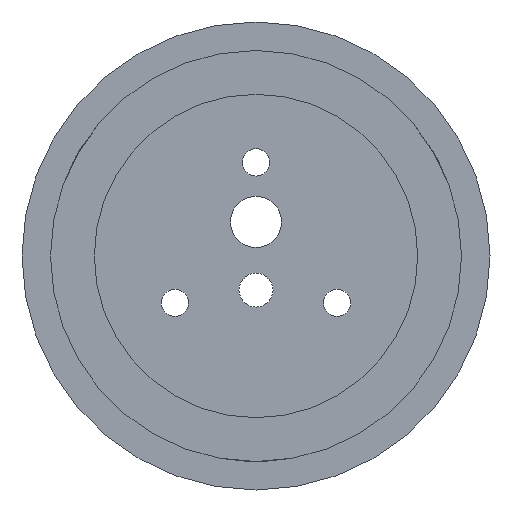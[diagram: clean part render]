
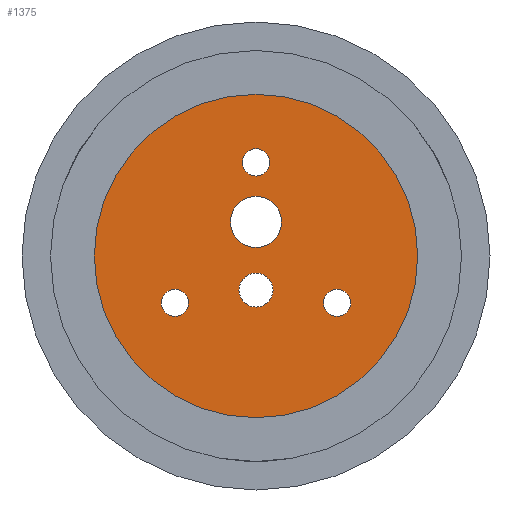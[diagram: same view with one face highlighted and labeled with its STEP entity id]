
A CAD part, left-side view. The second image highlights one B-rep face of the part: STEP entity #1375.
In plain terms, the highlighted planar face has unit normal (-1, 0, 0).
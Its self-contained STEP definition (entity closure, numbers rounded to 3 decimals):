
#168 = CYLINDRICAL_SURFACE('',#169,3.2);
#169 = AXIS2_PLACEMENT_3D('',#170,#171,#172);
#170 = CARTESIAN_POINT('',(549.,19.053,-11.));
#171 = DIRECTION('',(-1.,-0.,-0.));
#172 = DIRECTION('',(0.,1.,0.));
#203 = CYLINDRICAL_SURFACE('',#204,4.);
#204 = AXIS2_PLACEMENT_3D('',#205,#206,#207);
#205 = CARTESIAN_POINT('',(549.,0.,-8.));
#206 = DIRECTION('',(-1.,-0.,-0.));
#207 = DIRECTION('',(0.,1.,0.));
#238 = CYLINDRICAL_SURFACE('',#239,6.);
#239 = AXIS2_PLACEMENT_3D('',#240,#241,#242);
#240 = CARTESIAN_POINT('',(549.,0.,8.));
#241 = DIRECTION('',(-1.,-0.,-0.));
#242 = DIRECTION('',(0.,1.,0.));
#273 = CYLINDRICAL_SURFACE('',#274,3.2);
#274 = AXIS2_PLACEMENT_3D('',#275,#276,#277);
#275 = CARTESIAN_POINT('',(549.,0.,22.));
#276 = DIRECTION('',(-1.,-0.,-0.));
#277 = DIRECTION('',(0.,1.,0.));
#308 = CYLINDRICAL_SURFACE('',#309,3.2);
#309 = AXIS2_PLACEMENT_3D('',#310,#311,#312);
#310 = CARTESIAN_POINT('',(549.,-19.053,-11.));
#311 = DIRECTION('',(-1.,-0.,-0.));
#312 = DIRECTION('',(0.,1.,0.));
#904 = EDGE_CURVE('',#905,#905,#907,.T.);
#905 = VERTEX_POINT('',#906);
#906 = CARTESIAN_POINT('',(574.,22.253,-11.));
#907 = SURFACE_CURVE('',#908,(#913,#920),.PCURVE_S1.);
#908 = CIRCLE('',#909,3.2);
#909 = AXIS2_PLACEMENT_3D('',#910,#911,#912);
#910 = CARTESIAN_POINT('',(574.,19.053,-11.));
#911 = DIRECTION('',(-1.,0.,0.));
#912 = DIRECTION('',(0.,1.,0.));
#913 = PCURVE('',#168,#914);
#914 = DEFINITIONAL_REPRESENTATION('',(#915),#919);
#915 = LINE('',#916,#917);
#916 = CARTESIAN_POINT('',(-6.283,-25.));
#917 = VECTOR('',#918,1.);
#918 = DIRECTION('',(1.,-0.));
#919 = ( GEOMETRIC_REPRESENTATION_CONTEXT(2) 
PARAMETRIC_REPRESENTATION_CONTEXT() REPRESENTATION_CONTEXT('2D SPACE',''
  ) );
#920 = PCURVE('',#921,#926);
#921 = PLANE('',#922);
#922 = AXIS2_PLACEMENT_3D('',#923,#924,#925);
#923 = CARTESIAN_POINT('',(574.,0.,0.)
  );
#924 = DIRECTION('',(1.,0.,0.));
#925 = DIRECTION('',(-0.,0.,1.));
#926 = DEFINITIONAL_REPRESENTATION('',(#927),#935);
#927 = ( BOUNDED_CURVE() B_SPLINE_CURVE(2,(#928,#929,#930,#931,#932,#933
,#934),.UNSPECIFIED.,.T.,.F.) B_SPLINE_CURVE_WITH_KNOTS((1,2,2,2,2,1),(
    -2.094,0.,2.094,4.189,6.283,
8.378),.UNSPECIFIED.) CURVE() GEOMETRIC_REPRESENTATION_ITEM() 
RATIONAL_B_SPLINE_CURVE((1.,0.5,1.,0.5,1.,0.5,1.)) REPRESENTATION_ITEM(
  '') );
#928 = CARTESIAN_POINT('',(-11.,-22.253));
#929 = CARTESIAN_POINT('',(-16.543,-22.253));
#930 = CARTESIAN_POINT('',(-13.771,-17.453));
#931 = CARTESIAN_POINT('',(-11.,-12.653));
#932 = CARTESIAN_POINT('',(-8.229,-17.453));
#933 = CARTESIAN_POINT('',(-5.457,-22.253));
#934 = CARTESIAN_POINT('',(-11.,-22.253));
#935 = ( GEOMETRIC_REPRESENTATION_CONTEXT(2) 
PARAMETRIC_REPRESENTATION_CONTEXT() REPRESENTATION_CONTEXT('2D SPACE',''
  ) );
#963 = EDGE_CURVE('',#964,#964,#966,.T.);
#964 = VERTEX_POINT('',#965);
#965 = CARTESIAN_POINT('',(574.,4.,-8.));
#966 = SURFACE_CURVE('',#967,(#972,#979),.PCURVE_S1.);
#967 = CIRCLE('',#968,4.);
#968 = AXIS2_PLACEMENT_3D('',#969,#970,#971);
#969 = CARTESIAN_POINT('',(574.,0.,-8.));
#970 = DIRECTION('',(-1.,0.,0.));
#971 = DIRECTION('',(0.,1.,0.));
#972 = PCURVE('',#203,#973);
#973 = DEFINITIONAL_REPRESENTATION('',(#974),#978);
#974 = LINE('',#975,#976);
#975 = CARTESIAN_POINT('',(-6.283,-25.));
#976 = VECTOR('',#977,1.);
#977 = DIRECTION('',(1.,-0.));
#978 = ( GEOMETRIC_REPRESENTATION_CONTEXT(2) 
PARAMETRIC_REPRESENTATION_CONTEXT() REPRESENTATION_CONTEXT('2D SPACE',''
  ) );
#979 = PCURVE('',#921,#980);
#980 = DEFINITIONAL_REPRESENTATION('',(#981),#989);
#981 = ( BOUNDED_CURVE() B_SPLINE_CURVE(2,(#982,#983,#984,#985,#986,#987
,#988),.UNSPECIFIED.,.T.,.F.) B_SPLINE_CURVE_WITH_KNOTS((1,2,2,2,2,1),(
    -2.094,0.,2.094,4.189,6.283,
8.378),.UNSPECIFIED.) CURVE() GEOMETRIC_REPRESENTATION_ITEM() 
RATIONAL_B_SPLINE_CURVE((1.,0.5,1.,0.5,1.,0.5,1.)) REPRESENTATION_ITEM(
  '') );
#982 = CARTESIAN_POINT('',(-8.,-4.));
#983 = CARTESIAN_POINT('',(-14.928,-4.));
#984 = CARTESIAN_POINT('',(-11.464,2.));
#985 = CARTESIAN_POINT('',(-8.,8.));
#986 = CARTESIAN_POINT('',(-4.536,2.));
#987 = CARTESIAN_POINT('',(-1.072,-4.));
#988 = CARTESIAN_POINT('',(-8.,-4.));
#989 = ( GEOMETRIC_REPRESENTATION_CONTEXT(2) 
PARAMETRIC_REPRESENTATION_CONTEXT() REPRESENTATION_CONTEXT('2D SPACE',''
  ) );
#1017 = EDGE_CURVE('',#1018,#1018,#1020,.T.);
#1018 = VERTEX_POINT('',#1019);
#1019 = CARTESIAN_POINT('',(574.,6.,8.));
#1020 = SURFACE_CURVE('',#1021,(#1026,#1033),.PCURVE_S1.);
#1021 = CIRCLE('',#1022,6.);
#1022 = AXIS2_PLACEMENT_3D('',#1023,#1024,#1025);
#1023 = CARTESIAN_POINT('',(574.,0.,8.));
#1024 = DIRECTION('',(-1.,0.,0.));
#1025 = DIRECTION('',(0.,1.,0.));
#1026 = PCURVE('',#238,#1027);
#1027 = DEFINITIONAL_REPRESENTATION('',(#1028),#1032);
#1028 = LINE('',#1029,#1030);
#1029 = CARTESIAN_POINT('',(-6.283,-25.));
#1030 = VECTOR('',#1031,1.);
#1031 = DIRECTION('',(1.,-0.));
#1032 = ( GEOMETRIC_REPRESENTATION_CONTEXT(2) 
PARAMETRIC_REPRESENTATION_CONTEXT() REPRESENTATION_CONTEXT('2D SPACE',''
  ) );
#1033 = PCURVE('',#921,#1034);
#1034 = DEFINITIONAL_REPRESENTATION('',(#1035),#1043);
#1035 = ( BOUNDED_CURVE() B_SPLINE_CURVE(2,(#1036,#1037,#1038,#1039,
#1040,#1041,#1042),.UNSPECIFIED.,.T.,.F.) B_SPLINE_CURVE_WITH_KNOTS((1,2
    ,2,2,2,1),(-2.094,0.,2.094,4.189,
6.283,8.378),.UNSPECIFIED.) CURVE() 
GEOMETRIC_REPRESENTATION_ITEM() RATIONAL_B_SPLINE_CURVE((1.,0.5,1.,0.5,
1.,0.5,1.)) REPRESENTATION_ITEM('') );
#1036 = CARTESIAN_POINT('',(8.,-6.));
#1037 = CARTESIAN_POINT('',(-2.392,-6.));
#1038 = CARTESIAN_POINT('',(2.804,3.));
#1039 = CARTESIAN_POINT('',(8.,12.));
#1040 = CARTESIAN_POINT('',(13.196,3.));
#1041 = CARTESIAN_POINT('',(18.392,-6.));
#1042 = CARTESIAN_POINT('',(8.,-6.));
#1043 = ( GEOMETRIC_REPRESENTATION_CONTEXT(2) 
PARAMETRIC_REPRESENTATION_CONTEXT() REPRESENTATION_CONTEXT('2D SPACE',''
  ) );
#1071 = EDGE_CURVE('',#1072,#1072,#1074,.T.);
#1072 = VERTEX_POINT('',#1073);
#1073 = CARTESIAN_POINT('',(574.,3.2,22.));
#1074 = SURFACE_CURVE('',#1075,(#1080,#1087),.PCURVE_S1.);
#1075 = CIRCLE('',#1076,3.2);
#1076 = AXIS2_PLACEMENT_3D('',#1077,#1078,#1079);
#1077 = CARTESIAN_POINT('',(574.,0.,22.));
#1078 = DIRECTION('',(-1.,0.,0.));
#1079 = DIRECTION('',(0.,1.,0.));
#1080 = PCURVE('',#273,#1081);
#1081 = DEFINITIONAL_REPRESENTATION('',(#1082),#1086);
#1082 = LINE('',#1083,#1084);
#1083 = CARTESIAN_POINT('',(-6.283,-25.));
#1084 = VECTOR('',#1085,1.);
#1085 = DIRECTION('',(1.,-0.));
#1086 = ( GEOMETRIC_REPRESENTATION_CONTEXT(2) 
PARAMETRIC_REPRESENTATION_CONTEXT() REPRESENTATION_CONTEXT('2D SPACE',''
  ) );
#1087 = PCURVE('',#921,#1088);
#1088 = DEFINITIONAL_REPRESENTATION('',(#1089),#1097);
#1089 = ( BOUNDED_CURVE() B_SPLINE_CURVE(2,(#1090,#1091,#1092,#1093,
#1094,#1095,#1096),.UNSPECIFIED.,.T.,.F.) B_SPLINE_CURVE_WITH_KNOTS((1,2
    ,2,2,2,1),(-2.094,0.,2.094,4.189,
6.283,8.378),.UNSPECIFIED.) CURVE() 
GEOMETRIC_REPRESENTATION_ITEM() RATIONAL_B_SPLINE_CURVE((1.,0.5,1.,0.5,
1.,0.5,1.)) REPRESENTATION_ITEM('') );
#1090 = CARTESIAN_POINT('',(22.,-3.2));
#1091 = CARTESIAN_POINT('',(16.457,-3.2));
#1092 = CARTESIAN_POINT('',(19.229,1.6));
#1093 = CARTESIAN_POINT('',(22.,6.4));
#1094 = CARTESIAN_POINT('',(24.771,1.6));
#1095 = CARTESIAN_POINT('',(27.543,-3.2));
#1096 = CARTESIAN_POINT('',(22.,-3.2));
#1097 = ( GEOMETRIC_REPRESENTATION_CONTEXT(2) 
PARAMETRIC_REPRESENTATION_CONTEXT() REPRESENTATION_CONTEXT('2D SPACE',''
  ) );
#1125 = EDGE_CURVE('',#1126,#1126,#1128,.T.);
#1126 = VERTEX_POINT('',#1127);
#1127 = CARTESIAN_POINT('',(574.,-15.853,-11.));
#1128 = SURFACE_CURVE('',#1129,(#1134,#1141),.PCURVE_S1.);
#1129 = CIRCLE('',#1130,3.2);
#1130 = AXIS2_PLACEMENT_3D('',#1131,#1132,#1133);
#1131 = CARTESIAN_POINT('',(574.,-19.053,-11.));
#1132 = DIRECTION('',(-1.,0.,0.));
#1133 = DIRECTION('',(0.,1.,0.));
#1134 = PCURVE('',#308,#1135);
#1135 = DEFINITIONAL_REPRESENTATION('',(#1136),#1140);
#1136 = LINE('',#1137,#1138);
#1137 = CARTESIAN_POINT('',(-6.283,-25.));
#1138 = VECTOR('',#1139,1.);
#1139 = DIRECTION('',(1.,-0.));
#1140 = ( GEOMETRIC_REPRESENTATION_CONTEXT(2) 
PARAMETRIC_REPRESENTATION_CONTEXT() REPRESENTATION_CONTEXT('2D SPACE',''
  ) );
#1141 = PCURVE('',#921,#1142);
#1142 = DEFINITIONAL_REPRESENTATION('',(#1143),#1151);
#1143 = ( BOUNDED_CURVE() B_SPLINE_CURVE(2,(#1144,#1145,#1146,#1147,
#1148,#1149,#1150),.UNSPECIFIED.,.T.,.F.) B_SPLINE_CURVE_WITH_KNOTS((1,2
    ,2,2,2,1),(-2.094,0.,2.094,4.189,
6.283,8.378),.UNSPECIFIED.) CURVE() 
GEOMETRIC_REPRESENTATION_ITEM() RATIONAL_B_SPLINE_CURVE((1.,0.5,1.,0.5,
1.,0.5,1.)) REPRESENTATION_ITEM('') );
#1144 = CARTESIAN_POINT('',(-11.,15.853));
#1145 = CARTESIAN_POINT('',(-16.543,15.853));
#1146 = CARTESIAN_POINT('',(-13.771,20.653));
#1147 = CARTESIAN_POINT('',(-11.,25.453));
#1148 = CARTESIAN_POINT('',(-8.229,20.653));
#1149 = CARTESIAN_POINT('',(-5.457,15.853));
#1150 = CARTESIAN_POINT('',(-11.,15.853));
#1151 = ( GEOMETRIC_REPRESENTATION_CONTEXT(2) 
PARAMETRIC_REPRESENTATION_CONTEXT() REPRESENTATION_CONTEXT('2D SPACE',''
  ) );
#1375 = ADVANCED_FACE('',(#1376,#1407,#1410,#1413,#1416,#1419),#921,.F.
  );
#1376 = FACE_BOUND('',#1377,.F.);
#1377 = EDGE_LOOP('',(#1378));
#1378 = ORIENTED_EDGE('',*,*,#1379,.T.);
#1379 = EDGE_CURVE('',#1380,#1380,#1382,.T.);
#1380 = VERTEX_POINT('',#1381);
#1381 = CARTESIAN_POINT('',(574.,38.,0.));
#1382 = SURFACE_CURVE('',#1383,(#1388,#1395),.PCURVE_S1.);
#1383 = CIRCLE('',#1384,38.);
#1384 = AXIS2_PLACEMENT_3D('',#1385,#1386,#1387);
#1385 = CARTESIAN_POINT('',(574.,0.,0.));
#1386 = DIRECTION('',(1.,0.,0.));
#1387 = DIRECTION('',(0.,1.,0.));
#1388 = PCURVE('',#921,#1389);
#1389 = DEFINITIONAL_REPRESENTATION('',(#1390),#1394);
#1390 = CIRCLE('',#1391,38.);
#1391 = AXIS2_PLACEMENT_2D('',#1392,#1393);
#1392 = CARTESIAN_POINT('',(0.,0.));
#1393 = DIRECTION('',(0.,-1.));
#1394 = ( GEOMETRIC_REPRESENTATION_CONTEXT(2) 
PARAMETRIC_REPRESENTATION_CONTEXT() REPRESENTATION_CONTEXT('2D SPACE',''
  ) );
#1395 = PCURVE('',#1396,#1401);
#1396 = CYLINDRICAL_SURFACE('',#1397,38.);
#1397 = AXIS2_PLACEMENT_3D('',#1398,#1399,#1400);
#1398 = CARTESIAN_POINT('',(549.,0.,0.));
#1399 = DIRECTION('',(-1.,-0.,-0.));
#1400 = DIRECTION('',(0.,1.,0.));
#1401 = DEFINITIONAL_REPRESENTATION('',(#1402),#1406);
#1402 = LINE('',#1403,#1404);
#1403 = CARTESIAN_POINT('',(-0.,-25.));
#1404 = VECTOR('',#1405,1.);
#1405 = DIRECTION('',(-1.,0.));
#1406 = ( GEOMETRIC_REPRESENTATION_CONTEXT(2) 
PARAMETRIC_REPRESENTATION_CONTEXT() REPRESENTATION_CONTEXT('2D SPACE',''
  ) );
#1407 = FACE_BOUND('',#1408,.F.);
#1408 = EDGE_LOOP('',(#1409));
#1409 = ORIENTED_EDGE('',*,*,#904,.T.);
#1410 = FACE_BOUND('',#1411,.F.);
#1411 = EDGE_LOOP('',(#1412));
#1412 = ORIENTED_EDGE('',*,*,#963,.T.);
#1413 = FACE_BOUND('',#1414,.F.);
#1414 = EDGE_LOOP('',(#1415));
#1415 = ORIENTED_EDGE('',*,*,#1017,.T.);
#1416 = FACE_BOUND('',#1417,.F.);
#1417 = EDGE_LOOP('',(#1418));
#1418 = ORIENTED_EDGE('',*,*,#1071,.T.);
#1419 = FACE_BOUND('',#1420,.F.);
#1420 = EDGE_LOOP('',(#1421));
#1421 = ORIENTED_EDGE('',*,*,#1125,.T.);
